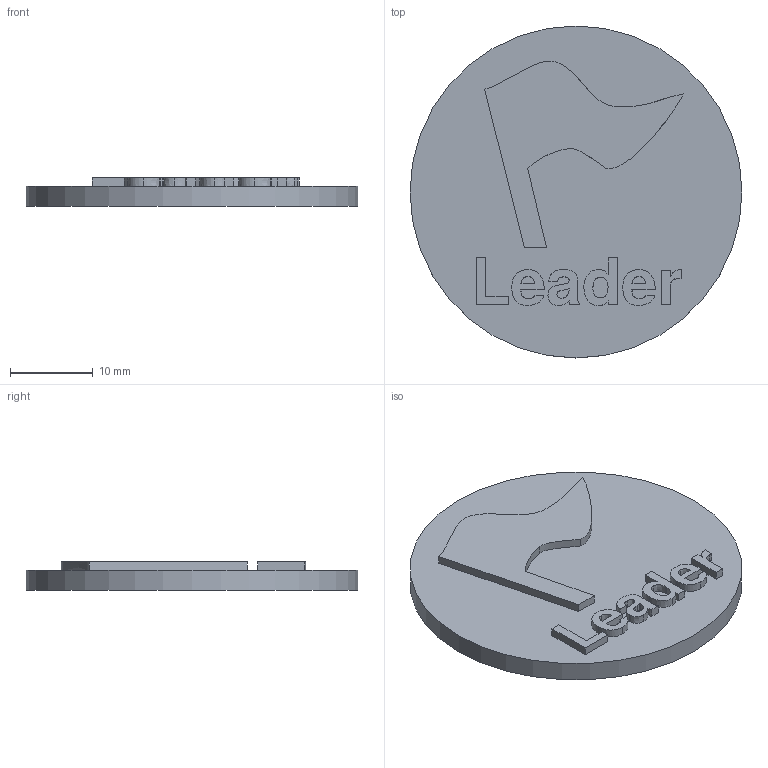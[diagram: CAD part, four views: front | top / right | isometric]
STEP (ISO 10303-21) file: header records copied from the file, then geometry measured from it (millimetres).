
FILE_DESCRIPTION(('Body'),'2;1');
FILE_NAME('Body','2026-09-07T18:15:30',('An Author'),('A Company'), 'Open CASCADE STEP processor 7.9','Dune 3D','Unknown');
FILE_SCHEMA(('AUTOMOTIVE_DESIGN { 1 0 10303 214 1 1 1 1 }'));
Length unit declared in the file: millimetre
Products named in the file (2): Leader Token; Body
Assembly tree (1 placements, depth 2):
  Leader Token
    Body
Bounding box: 40 x 40 x 3.4 mm (x, y, z)
Volume: 3281.3 mm3; surface area: 3028.5 mm2
Topology: 1 solids, 1 shells, 98 faces, 255 edges, 170 vertices
Faces by surface type: plane 49, extrusion 48, cylinder 1
Full cylindrical faces by diameter (mm): 40 x1
Entity records: 6631 total; most frequent: CARTESIAN_POINT 1755, DIRECTION 727, VECTOR 617, LINE 569, ORIENTED_EDGE 510, PCURVE 510, DEFINITIONAL_REPRESENTATION 510, EDGE_CURVE 255
